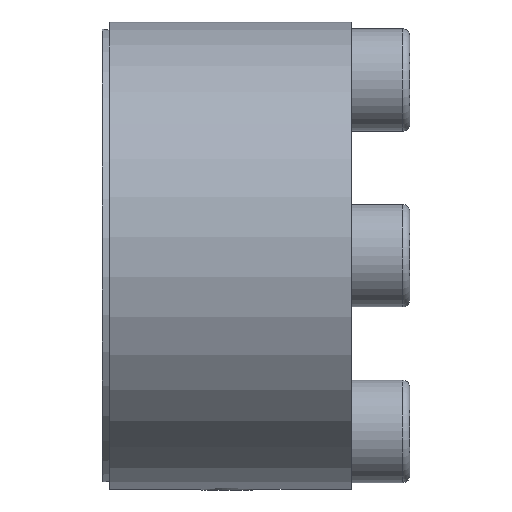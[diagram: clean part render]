
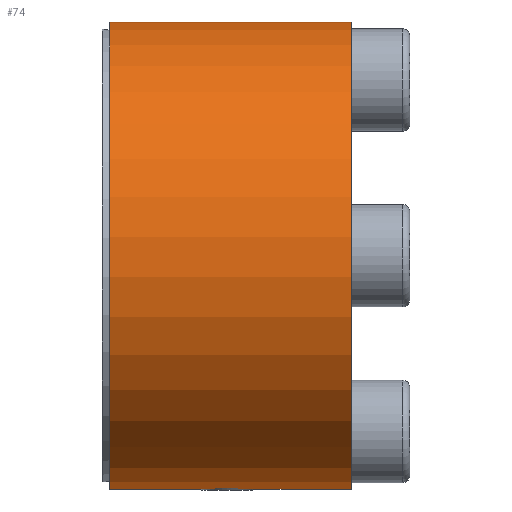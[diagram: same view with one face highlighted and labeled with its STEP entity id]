
A CAD part, left-side view. The second image highlights one B-rep face of the part: STEP entity #74.
In plain terms, the highlighted cylindrical face has radius 16 mm (diameter 32 mm), a partial arc.
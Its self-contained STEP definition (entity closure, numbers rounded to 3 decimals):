
#74 = ADVANCED_FACE( '', ( #145 ), #146, .T. );
#145 = FACE_OUTER_BOUND( '', #221, .T. );
#146 = CYLINDRICAL_SURFACE( '', #222, 16. );
#221 = EDGE_LOOP( '', ( #356, #357, #358, #359 ) );
#222 = AXIS2_PLACEMENT_3D( '', #360, #361, #362 );
#356 = ORIENTED_EDGE( '', *, *, #468, .T. );
#357 = ORIENTED_EDGE( '', *, *, #485, .T. );
#358 = ORIENTED_EDGE( '', *, *, #499, .T. );
#359 = ORIENTED_EDGE( '', *, *, #500, .T. );
#360 = CARTESIAN_POINT( '', ( 0., -60., 0. ) );
#361 = DIRECTION( '', ( 0., -1., 0. ) );
#362 = DIRECTION( '', ( 0., 0., 1. ) );
#468 = EDGE_CURVE( '', #580, #578, #581, .T. );
#485 = EDGE_CURVE( '', #578, #608, #611, .F. );
#499 = EDGE_CURVE( '', #608, #628, #629, .T. );
#500 = EDGE_CURVE( '', #628, #580, #630, .T. );
#578 = VERTEX_POINT( '', #793 );
#580 = VERTEX_POINT( '', #796 );
#581 = CIRCLE( '', #797, 16. );
#608 = VERTEX_POINT( '', #829 );
#611 = LINE( '', #833, #834 );
#628 = VERTEX_POINT( '', #864 );
#629 = CIRCLE( '', #865, 16. );
#630 = LINE( '', #866, #867 );
#793 = CARTESIAN_POINT( '', ( 11.593, 8., 11.027 ) );
#796 = CARTESIAN_POINT( '', ( 11.027, 8., 11.593 ) );
#797 = AXIS2_PLACEMENT_3D( '', #923, #924, #925 );
#829 = CARTESIAN_POINT( '', ( 11.593, -8.5, 11.027 ) );
#833 = CARTESIAN_POINT( '', ( 11.593, -60., 11.027 ) );
#834 = VECTOR( '', #953, 1000. );
#864 = CARTESIAN_POINT( '', ( 11.027, -8.5, 11.593 ) );
#865 = AXIS2_PLACEMENT_3D( '', #964, #965, #966 );
#866 = CARTESIAN_POINT( '', ( 11.027, -60., 11.593 ) );
#867 = VECTOR( '', #967, 1000. );
#923 = CARTESIAN_POINT( '', ( 0., 8., 0. ) );
#924 = DIRECTION( '', ( 0., -1., 0. ) );
#925 = DIRECTION( '', ( 0., 0., -1. ) );
#953 = DIRECTION( '', ( 0., 1., 0. ) );
#964 = CARTESIAN_POINT( '', ( 0., -8.5, 0. ) );
#965 = DIRECTION( '', ( 0., 1., 0. ) );
#966 = DIRECTION( '', ( 0., 0., 1. ) );
#967 = DIRECTION( '', ( 0., 1., 0. ) );
